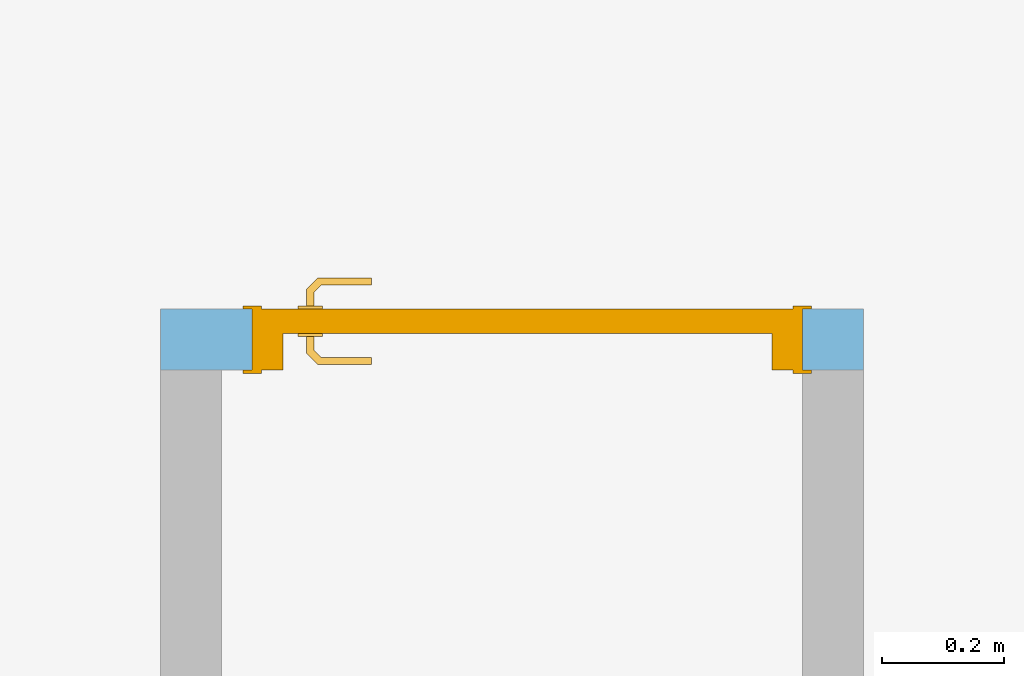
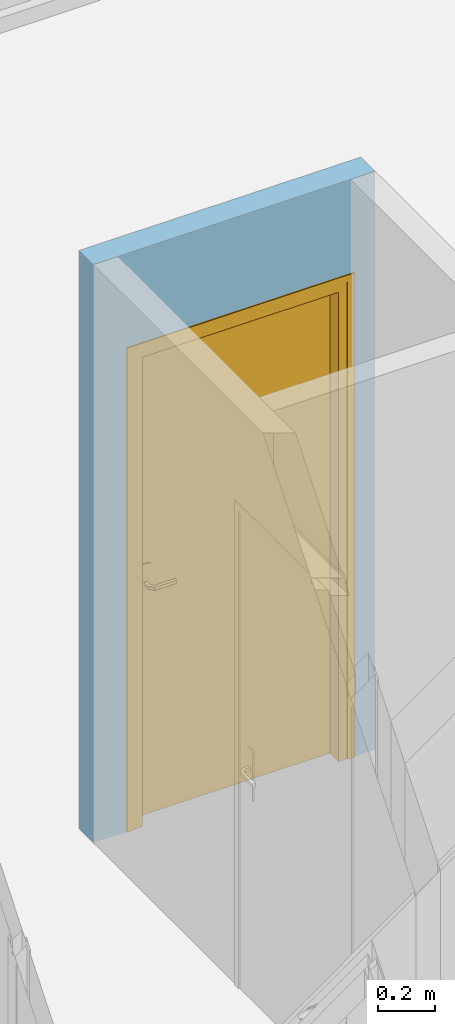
# One storey, part 76 of 81: 1 door, 1 opening, plus 1 element that does not belong to this part.
"""IFC2X3 building model written with IfcOpenShell, lengths in metres."""

from ifc_helpers import new_model, entity, si_unit, converted_unit, derived_unit, direction, frame, frame_2d, origin, place, context, subcontext, project, spatial, polyline, rectangle, extrude, clip, bounded_halfspace, faceted_brep, source, transform, mapped, material, material_list, layer, layer_set, layer_usage, type_object, type_shapes, element, fill, save


model = new_model("IFC2X3")

# Units and contexts
model_context = context("Model", 3, precision=1e-05, world=origin(), true_north=direction((6.12303176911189e-17, 1.0)))
body_context = subcontext(model_context, "Body", "Model", "MODEL_VIEW")
ifc_project = project(units=[si_unit("LENGTHUNIT", "METRE"), si_unit("AREAUNIT", "SQUARE_METRE"), si_unit("VOLUMEUNIT", "CUBIC_METRE"), converted_unit("PLANEANGLEUNIT", "DEGREE", entity("IfcRatioMeasure", 0.0174532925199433), si_unit("PLANEANGLEUNIT", "RADIAN"), dimensions=[0, 0, 0, 0, 0, 0, 0]), si_unit("MASSUNIT", "GRAM", prefix="KILO"), derived_unit("MASSDENSITYUNIT", [(si_unit("MASSUNIT", "GRAM", prefix="KILO"), 1), (si_unit("LENGTHUNIT", "METRE"), -3)]), derived_unit("MOMENTOFINERTIAUNIT", [(si_unit("LENGTHUNIT", "METRE"), 4)]), si_unit("TIMEUNIT", "SECOND"), si_unit("FREQUENCYUNIT", "HERTZ"), si_unit("THERMODYNAMICTEMPERATUREUNIT", "DEGREE_CELSIUS"), derived_unit("THERMALTRANSMITTANCEUNIT", [(si_unit("MASSUNIT", "GRAM", prefix="KILO"), 1), (si_unit("THERMODYNAMICTEMPERATUREUNIT", "KELVIN"), -1), (si_unit("TIMEUNIT", "SECOND"), -3)]), derived_unit("VOLUMETRICFLOWRATEUNIT", [(si_unit("LENGTHUNIT", "METRE"), 3), (si_unit("TIMEUNIT", "SECOND"), -1)]), si_unit("ELECTRICCURRENTUNIT", "AMPERE"), si_unit("ELECTRICVOLTAGEUNIT", "VOLT"), si_unit("POWERUNIT", "WATT"), si_unit("FORCEUNIT", "NEWTON", prefix="KILO"), si_unit("ILLUMINANCEUNIT", "LUX"), si_unit("LUMINOUSFLUXUNIT", "LUMEN"), si_unit("LUMINOUSINTENSITYUNIT", "CANDELA"), derived_unit("USERDEFINED", [(si_unit("MASSUNIT", "GRAM", prefix="KILO"), -1), (si_unit("LENGTHUNIT", "METRE"), -2), (si_unit("TIMEUNIT", "SECOND"), 3), (si_unit("LUMINOUSFLUXUNIT", "LUMEN"), 1)]), derived_unit("LINEARVELOCITYUNIT", [(si_unit("LENGTHUNIT", "METRE"), 1), (si_unit("TIMEUNIT", "SECOND"), -1)]), si_unit("PRESSUREUNIT", "PASCAL"), derived_unit("USERDEFINED", [(si_unit("LENGTHUNIT", "METRE"), -2), (si_unit("MASSUNIT", "GRAM", prefix="KILO"), 1), (si_unit("TIMEUNIT", "SECOND"), -2)]), derived_unit("LINEARFORCEUNIT", [(si_unit("MASSUNIT", "GRAM", prefix="KILO"), 1), (si_unit("LENGTHUNIT", "METRE"), 1), (si_unit("TIMEUNIT", "SECOND"), -2), (si_unit("LENGTHUNIT", "METRE"), -1)]), derived_unit("PLANARFORCEUNIT", [(si_unit("MASSUNIT", "GRAM", prefix="KILO"), 1), (si_unit("LENGTHUNIT", "METRE"), 1), (si_unit("TIMEUNIT", "SECOND"), -2), (si_unit("LENGTHUNIT", "METRE"), -2)])], contexts=[model_context])

# Site, building, storey
site_placement = place(None, origin())
site = spatial("IfcSite", under=ifc_project, at=site_placement, Name="Surface", CompositionType="ELEMENT")
building_placement = place(site_placement, origin())
building = spatial("IfcBuilding", under=site, at=building_placement, CompositionType="ELEMENT")
storey_placement = place(building_placement, origin())
storey = spatial("IfcBuildingStorey", under=building, at=storey_placement, Name="01 RDC", CompositionType="ELEMENT", Elevation=-1.94916083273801e-14)

# Wall, opening, door
ifc_material_1 = material(Name="Isolant - laine minérale")
ifc_layer = layer(ifc_material_1, 0.1)
ifc_layer_set = layer_set([ifc_layer], Name="Mur de base:Int. Polyester 100 mm")
ifc_layer_usage = layer_usage(ifc_layer_set, "AXIS2", "NEGATIVE", 0.05)
wall_type = type_object("IfcWallType", Name="Mur de base:Int. Polyester 100 mm", PredefinedType="STANDARD", material=ifc_layer_set)
wall_placement = place(storey_placement, frame((10.4315615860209, -1.00596095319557, 0.0), z_axis=(0.0, 0.0, 1.0), x_axis=(-1.0, 0.0, 0.0)))
wall = element("IfcWallStandardCase", 1, at=wall_placement, inside=storey, type_object=wall_type, material=ifc_layer_usage, Name="Mur de base:Int. Polyester 100 mm", ObjectType="Mur de base:Int. Polyester 100 mm", context=body_context, shape_type="Clipping", body=[
    clip(extrude(rectangle(XDim=1.15, YDim=0.1, at=frame_2d((0.575000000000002, -1.04083408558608e-17), x_axis=(-1.0, 0.0))), origin(), (0.0, 0.0, 1.0), 2.495), bounded_halfspace(frame((0.0, -0.05, 2.495), z_axis=(0.0, 0.0, -1.0), x_axis=(0.0, -1.0, 0.0)), True, frame((0.0, -0.05, 2.495)), polyline([(0.0, 0.0), (1.15, 0.0), (1.15, 0.0999999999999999), (1.05, 0.1), (0.100000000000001, 0.0999999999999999), (0.0, 0.1), (0.0, 0.0)]))),
])
opening_placement = place(wall_placement, frame((1.0, 0.0499999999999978, 0.0)))
opening = element("IfcOpeningElement", 2, at=opening_placement, cuts=wall, Name="Int. Simple:PP (0.83m x 2.04m):1", ObjectType="Opening", context=body_context, shape_type="SweptSolid", body=[
    extrude(rectangle(XDim=2.075, YDim=0.9, at=frame_2d((1.0375, 0.45), x_axis=(1.0, 0.0))), frame((0.0, 0.0, 0.0), z_axis=(0.0, -1.0, 0.0), x_axis=(0.0, 0.0, 1.0)), (0.0, 0.0, 1.0), 0.1),
])
ifc_material_2 = material(Name="Finition Peinture - Blanc satiné")
ifc_material_3 = material(Name="Bois - Panneau de porte")
ifc_material_4 = material(Name="Bois - Cadre de porte")
ifc_material_list_1 = material_list([ifc_material_2, ifc_material_3, ifc_material_4])
ifc_material_list_2 = material_list([ifc_material_2, ifc_material_4, ifc_material_3, ifc_material_4])
door_style = type_object("IfcDoorStyle", Name="Int. Simple:PP (0.83m x 2.04m)", ConstructionType="NOTDEFINED", OperationType="NOTDEFINED", ParameterTakesPrecedence=False, Sizeable=False, material=ifc_material_list_2)
shared_shape = source(origin(), body_context, "Body", "Brep", [
    faceted_brep([(0.895000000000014, -0.00500000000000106, 0.870000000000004), (0.895000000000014, -0.00500000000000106, 1.08), (0.885352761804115, -0.00500000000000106, 1.08399601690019), (0.875000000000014, -0.00500000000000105, 1.08535898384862), (0.864647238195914, -0.00500000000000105, 1.08399601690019), (0.855000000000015, -0.00500000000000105, 1.08), (0.855000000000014, -0.00500000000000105, 0.870000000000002), (0.864647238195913, -0.00500000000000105, 0.866003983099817), (0.875000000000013, -0.00500000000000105, 0.86464101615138), (0.885352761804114, -0.00500000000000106, 0.866003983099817), (0.895000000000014, 0.0, 1.08), (0.895000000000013, 0.0, 0.870000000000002), (0.885352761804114, 0.0, 0.866003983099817), (0.875000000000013, 0.0, 0.86464101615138), (0.864647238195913, 0.0, 0.866003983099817), (0.855000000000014, 0.0, 0.870000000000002), (0.855000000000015, 0.0, 1.08), (0.864647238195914, 0.0, 1.08399601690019), (0.875000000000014, 0.0, 1.08535898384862), (0.885352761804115, 0.0, 1.08399601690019)], [[[0, 1, 2, 3, 4, 5, 6, 7, 8, 9]], [[10, 11, 12, 13, 14, 15, 16, 17, 18, 19]], [[9, 12, 11, 0]], [[8, 13, 12, 9]], [[7, 14, 13, 8]], [[7, 6, 15, 14]], [[15, 6, 5, 16]], [[4, 17, 16, 5]], [[3, 18, 17, 4]], [[2, 19, 18, 3]], [[2, 1, 10, 19]], [[11, 10, 1, 0]]]),
    faceted_brep([(0.895000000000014, 0.0399999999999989, 0.870000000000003), (0.895000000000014, 0.0399999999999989, 1.08), (0.885352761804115, 0.0399999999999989, 1.08399601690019), (0.875000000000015, 0.0399999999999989, 1.08535898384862), (0.864647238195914, 0.0399999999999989, 1.08399601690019), (0.855000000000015, 0.0399999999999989, 1.08), (0.855000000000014, 0.0399999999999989, 0.870000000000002), (0.864647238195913, 0.0399999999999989, 0.866003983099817), (0.875000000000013, 0.0399999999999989, 0.86464101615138), (0.885352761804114, 0.0399999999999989, 0.866003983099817), (0.875000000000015, 0.0449999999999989, 1.08535898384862), (0.885352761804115, 0.0449999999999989, 1.08399601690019), (0.895000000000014, 0.0449999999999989, 1.08), (0.895000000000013, 0.0449999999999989, 0.870000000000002), (0.885352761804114, 0.0449999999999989, 0.866003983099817), (0.875000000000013, 0.0449999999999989, 0.86464101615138), (0.864647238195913, 0.0449999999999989, 0.866003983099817), (0.855000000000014, 0.0449999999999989, 0.870000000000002), (0.855000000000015, 0.0449999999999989, 1.08), (0.864647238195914, 0.0449999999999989, 1.08399601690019)], [[[0, 1, 2, 3, 4, 5, 6, 7, 8, 9]], [[10, 11, 12, 13, 14, 15, 16, 17, 18, 19]], [[4, 19, 18, 5]], [[3, 10, 19, 4]], [[2, 11, 10, 3]], [[2, 1, 12, 11]], [[13, 12, 1, 0]], [[9, 14, 13, 0]], [[8, 15, 14, 9]], [[7, 16, 15, 8]], [[7, 6, 17, 16]], [[17, 6, 5, 18]]]),
    faceted_brep([(0.872974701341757, -0.0050000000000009, 1.00778044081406), (0.877025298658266, -0.00500000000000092, 1.00778044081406), (0.881000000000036, -0.00500000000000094, 1.00699999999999), (0.881000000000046, -0.00500000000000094, 0.992999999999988), (0.877025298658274, -0.00500000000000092, 0.99221955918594), (0.872974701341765, -0.0050000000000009, 0.992219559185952), (0.868999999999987, -0.00500000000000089, 0.993000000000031), (0.868999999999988, -0.00500000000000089, 1.007), (0.877025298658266, -0.0310045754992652, 1.00778044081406), (0.881000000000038, -0.0326509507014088, 1.007), (0.872974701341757, -0.0293267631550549, 1.00778044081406), (0.859298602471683, -0.0430028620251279, 1.00778044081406), (0.860976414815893, -0.0470534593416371, 1.00778044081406), (0.868999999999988, -0.0276803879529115, 1.007), (0.868999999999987, -0.0276803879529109, 0.993000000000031), (0.872974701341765, -0.0293267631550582, 0.992219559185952), (0.877025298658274, -0.0310045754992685, 0.99221955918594), (0.860976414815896, -0.0470534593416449, 0.99221955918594), (0.859298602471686, -0.0430028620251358, 0.992219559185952), (0.881000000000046, -0.0326509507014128, 0.992999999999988), (0.862622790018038, -0.051028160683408, 1.007), (0.85765222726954, -0.0390281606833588, 1.007), (0.857652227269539, -0.0390281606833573, 0.993000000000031), (0.862622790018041, -0.0510281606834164, 0.992999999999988), (0.774981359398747, -0.0510281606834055, 1.007), (0.774981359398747, -0.0470534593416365, 1.00778044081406), (0.774981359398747, -0.0430028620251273, 1.00778044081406), (0.774981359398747, -0.0390281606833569, 1.00699999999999), (0.774981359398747, -0.0390281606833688, 0.993000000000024), (0.774981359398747, -0.0430028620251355, 0.992219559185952), (0.774981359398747, -0.0470534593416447, 0.99221955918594), (0.774981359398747, -0.0510281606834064, 0.992999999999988), (0.81713998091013, -0.045028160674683, 1.0078786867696), (0.822692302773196, -0.051028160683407, 1.007), (0.816316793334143, -0.039028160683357, 1.007), (0.816316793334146, -0.0390281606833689, 0.993000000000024), (0.817139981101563, -0.0450281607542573, 0.992121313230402), (0.822692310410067, -0.0510281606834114, 0.992999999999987)], [[[0, 1, 2, 3, 4, 5, 6, 7]], [[2, 1, 8, 9]], [[1, 0, 10, 11, 12, 8]], [[0, 7, 13, 10]], [[14, 13, 7, 6]], [[5, 15, 14, 6]], [[5, 4, 16, 17, 18, 15]], [[3, 19, 16, 4]], [[9, 19, 3, 2]], [[9, 8, 12, 20]], [[10, 13, 21, 11]], [[22, 21, 13, 14]], [[14, 15, 18, 22]], [[16, 19, 23, 17]], [[20, 23, 19, 9]], [[24, 25, 26, 27, 28, 29, 30, 31]], [[32, 25, 33]], [[33, 25, 24]], [[33, 20, 12]], [[11, 34, 32]], [[34, 11, 21]], [[27, 26, 34]], [[32, 26, 25]], [[32, 34, 26]], [[32, 33, 12]], [[11, 32, 12]], [[21, 22, 35, 28, 27, 34]], [[36, 29, 35]], [[30, 36, 37]], [[18, 35, 22]], [[29, 28, 35]], [[30, 37, 31]], [[37, 17, 23]], [[36, 17, 37]], [[36, 18, 17]], [[36, 35, 18]], [[29, 36, 30]], [[23, 20, 33, 24, 31, 37]]]),
    faceted_brep([(0.872974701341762, 0.0449999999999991, 0.992219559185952), (0.877025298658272, 0.0449999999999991, 0.99221955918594), (0.881000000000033, 0.044999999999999, 0.992999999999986), (0.881000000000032, 0.044999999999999, 1.007), (0.877025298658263, 0.0449999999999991, 1.00778044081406), (0.872974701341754, 0.0449999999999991, 1.00778044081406), (0.868999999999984, 0.0449999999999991, 1.007), (0.868999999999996, 0.0449999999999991, 0.993000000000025), (0.868999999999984, 0.067485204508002, 1.007), (0.868999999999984, 0.0674852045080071, 0.993000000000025), (0.872974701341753, 0.0691315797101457, 1.00778044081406), (0.877025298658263, 0.070809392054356, 1.00778044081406), (0.860838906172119, 0.0869957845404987, 1.00778044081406), (0.859161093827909, 0.0829451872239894, 1.00778044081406), (0.881000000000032, 0.0724557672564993, 1.007), (0.881000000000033, 0.0724557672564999, 0.992999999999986), (0.877025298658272, 0.0708093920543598, 0.99221955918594), (0.872974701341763, 0.0691315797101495, 0.992219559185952), (0.859161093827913, 0.0829451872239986, 0.992219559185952), (0.860838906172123, 0.0869957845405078, 0.99221955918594), (0.857514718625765, 0.0789704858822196, 1.007), (0.857514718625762, 0.0789704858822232, 0.993000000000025), (0.862485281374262, 0.0909704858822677, 1.007), (0.862485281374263, 0.0909704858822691, 0.992999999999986), (0.77495421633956, 0.0829451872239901, 1.00778044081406), (0.77495421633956, 0.0869957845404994, 1.00778044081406), (0.77495421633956, 0.0909704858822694, 1.007), (0.77495421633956, 0.0909704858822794, 0.992999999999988), (0.77495421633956, 0.086995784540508, 0.99221955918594), (0.77495421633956, 0.0829451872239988, 0.992219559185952), (0.77495421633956, 0.0789704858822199, 0.993000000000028), (0.77495421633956, 0.0789704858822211, 1.007), (0.816234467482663, 0.0789704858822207, 1.007), (0.816234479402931, 0.0789704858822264, 0.993000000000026), (0.817057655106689, 0.0849704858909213, 1.0078786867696), (0.822554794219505, 0.0909704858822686, 1.007), (0.822554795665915, 0.0909704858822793, 0.992999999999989), (0.817057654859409, 0.0849704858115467, 0.992121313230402)], [[[0, 1, 2, 3, 4, 5, 6, 7]], [[8, 9, 7, 6]], [[5, 10, 8, 6]], [[5, 4, 11, 12, 13, 10]], [[3, 14, 11, 4]], [[14, 3, 2, 15]], [[2, 1, 16, 15]], [[1, 0, 17, 18, 19, 16]], [[0, 7, 9, 17]], [[20, 21, 9, 8]], [[8, 10, 13, 20]], [[14, 22, 12, 11]], [[23, 22, 14, 15]], [[15, 16, 19, 23]], [[17, 9, 21, 18]], [[24, 25, 26, 27, 28, 29, 30, 31]], [[21, 20, 32, 31, 30, 33]], [[34, 24, 32]], [[25, 34, 35]], [[13, 32, 20]], [[24, 31, 32]], [[25, 35, 26]], [[35, 12, 22]], [[34, 12, 35]], [[34, 13, 12]], [[34, 32, 13]], [[24, 34, 25]], [[22, 23, 36, 27, 26, 35]], [[37, 28, 36]], [[36, 28, 27]], [[36, 23, 19]], [[18, 33, 37]], [[33, 18, 21]], [[30, 29, 33]], [[37, 29, 28]], [[37, 33, 29]], [[37, 36, 19]], [[18, 37, 19]]]),
    faceted_brep([(0.935000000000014, 0.04, 2.04), (0.935000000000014, 0.04, 0.0), (0.105000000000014, 0.04, 0.0), (0.105000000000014, 0.04, 2.04), (0.935000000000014, 0.0, 2.04), (0.105000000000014, 0.0, 2.04), (0.105000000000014, 0.0, 0.0), (0.935000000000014, 0.0, 0.0)], [[[0, 1, 2, 3]], [[4, 5, 6, 7]], [[3, 5, 4, 0]], [[2, 6, 5, 3]], [[1, 7, 6, 2]], [[0, 4, 7, 1]]]),
    faceted_brep([(0.970000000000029, 0.0, 0.0), (0.935000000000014, 0.0, 0.0), (0.935000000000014, 0.040000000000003, 0.0), (0.920000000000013, 0.040000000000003, 0.0), (0.920000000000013, 0.100000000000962, 0.0), (0.970000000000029, 0.100000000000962, 0.0), (0.970000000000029, 0.100000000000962, 2.07500000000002), (0.970000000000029, 0.0, 2.07500000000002), (0.920000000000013, 0.100000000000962, 2.025), (0.120000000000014, 0.100000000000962, 2.025), (0.120000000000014, 0.100000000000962, 0.0), (0.0699999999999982, 0.100000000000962, 0.0), (0.0699999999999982, 0.100000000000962, 2.07500000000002), (0.920000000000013, 0.040000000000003, 2.025), (0.935000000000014, 0.040000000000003, 2.04), (0.105000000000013, 0.040000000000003, 2.04), (0.105000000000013, 0.040000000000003, 0.0), (0.120000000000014, 0.040000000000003, 0.0), (0.120000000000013, 0.040000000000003, 2.025), (0.935000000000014, 0.0, 2.04), (0.0699999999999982, 0.0, 2.07500000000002), (0.0699999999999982, 0.0, 0.0), (0.105000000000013, 0.0, 0.0), (0.105000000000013, 0.0, 2.04)], [[[0, 1, 2, 3, 4, 5]], [[5, 6, 7, 0]], [[4, 8, 9, 10, 11, 12, 6, 5]], [[3, 13, 8, 4]], [[2, 14, 15, 16, 17, 18, 13, 3]], [[1, 19, 14, 2]], [[0, 7, 20, 21, 22, 23, 19, 1]], [[12, 11, 21, 20]], [[21, 11, 10, 17, 16, 22]], [[18, 17, 10, 9]], [[23, 22, 16, 15]], [[6, 12, 20, 7]], [[13, 18, 9, 8]], [[19, 23, 15, 14]]]),
    faceted_brep([(0.955000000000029, 0.100000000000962, 0.0), (0.955000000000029, 0.105000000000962, 0.0), (0.985000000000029, 0.105000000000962, 0.0), (0.985000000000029, 0.100000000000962, 0.0), (0.985000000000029, 0.100000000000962, 2.09000000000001), (0.0550000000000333, 0.100000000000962, 2.09000000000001), (0.0550000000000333, 0.100000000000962, 0.0), (0.0850000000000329, 0.100000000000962, 0.0), (0.0850000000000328, 0.100000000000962, 2.06000000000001), (0.955000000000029, 0.100000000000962, 2.06000000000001), (0.985000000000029, 0.105000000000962, 2.09000000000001), (0.955000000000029, 0.105000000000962, 2.06000000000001), (0.0850000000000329, 0.105000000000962, 2.06000000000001), (0.0850000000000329, 0.105000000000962, 0.0), (0.055000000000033, 0.105000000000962, 0.0), (0.0550000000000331, 0.105000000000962, 2.09000000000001)], [[[0, 1, 2, 3]], [[3, 4, 5, 6, 7, 8, 9, 0]], [[2, 10, 4, 3]], [[1, 11, 12, 13, 14, 15, 10, 2]], [[0, 9, 11, 1]], [[7, 6, 14, 13]], [[8, 7, 13, 12]], [[15, 14, 6, 5]], [[10, 15, 5, 4]], [[9, 8, 12, 11]]]),
    faceted_brep([(0.985000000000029, -0.005, 0.0), (0.985000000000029, -0.005, 2.09000000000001), (0.0550000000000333, -0.005, 2.09000000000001), (0.0550000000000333, -0.005, 0.0), (0.0850000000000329, -0.005, 0.0), (0.0850000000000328, -0.005, 2.06000000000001), (0.955000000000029, -0.005, 2.06000000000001), (0.955000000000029, -0.005, 0.0), (0.985000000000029, 0.0, 0.0), (0.985000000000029, 0.0, 2.09000000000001), (0.955000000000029, 0.0, 0.0), (0.955000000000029, 0.0, 2.06000000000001), (0.0850000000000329, 0.0, 2.06000000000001), (0.0850000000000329, 0.0, 0.0), (0.055000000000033, 0.0, 0.0), (0.0550000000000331, 0.0, 2.09000000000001)], [[[0, 1, 2, 3, 4, 5, 6, 7]], [[8, 9, 1, 0]], [[10, 11, 12, 13, 14, 15, 9, 8]], [[7, 6, 11, 10]], [[5, 4, 13, 12]], [[15, 14, 3, 2]], [[9, 15, 2, 1]], [[6, 5, 12, 11]], [[4, 3, 14, 13]], [[7, 10, 8, 0]]]),
])
type_shapes(door_style, [shared_shape])
door_placement = place(opening_placement, frame((-0.970000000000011, -0.099999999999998, 0.0)))
door = element("IfcDoor", 3, at=door_placement, inside=storey, type_object=door_style, material=ifc_material_list_1, Name="Int. Simple:PP (0.83m x 2.04m)", ObjectType="Int. Simple:PP (0.83m x 2.04m)", OverallHeight=2.075, OverallWidth=0.899999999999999, context=body_context, shape_type="MappedRepresentation", body=[
    mapped(shared_shape, transform((0.0, 0.0, 0.0), scale=1.0)),
])
fill(opening, door)

save(model, "model.ifc")
